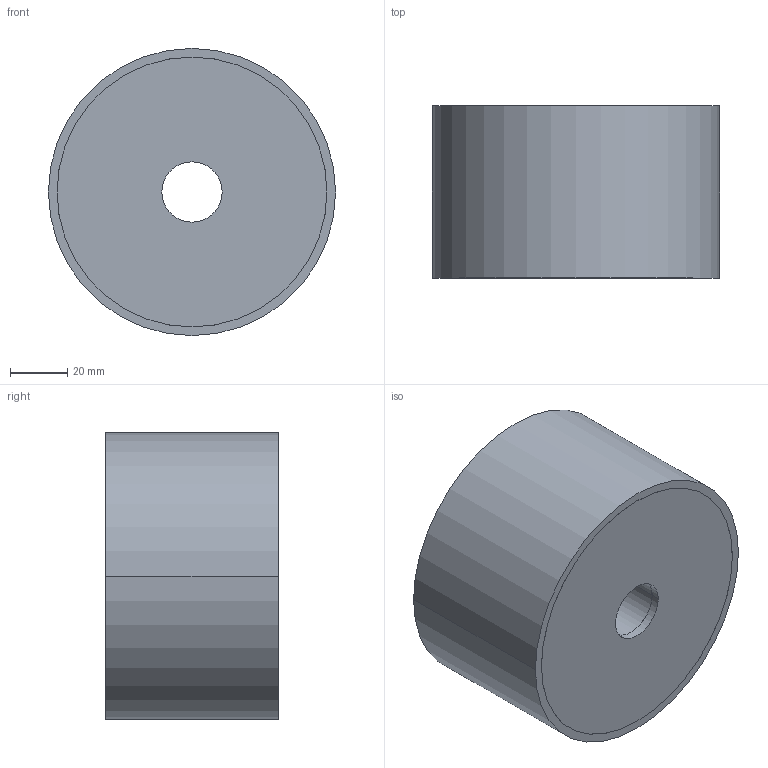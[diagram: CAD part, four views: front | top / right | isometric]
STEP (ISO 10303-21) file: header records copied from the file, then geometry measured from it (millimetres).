
FILE_DESCRIPTION (( 'STEP AP214' ), '1' );
FILE_NAME ('351-100-60-21-DD-55.step', '2025-07-23T10:13:51', ( '' ), ( '' ), 'SwSTEP 2.0', 'SolidWorks 2022', '' );
FILE_SCHEMA (( 'AUTOMOTIVE_DESIGN' ));
Length unit declared in the file: millimetre
Products named in the file (1): 351-100-60-21-DD-55
Bounding box: 100 x 60 x 100 mm (x, y, z)
Volume: 450457.2 mm3; surface area: 37837.7 mm2
Topology: 1 solids, 1 shells, 30 faces, 60 edges, 40 vertices
Faces by surface type: cylinder 20, plane 10
Entity records: 919 total; most frequent: DIRECTION 162, CARTESIAN_POINT 131, ORIENTED_EDGE 120, AXIS2_PLACEMENT_3D 71, EDGE_CURVE 60, VERTEX_POINT 40, CIRCLE 40, EDGE_LOOP 40
